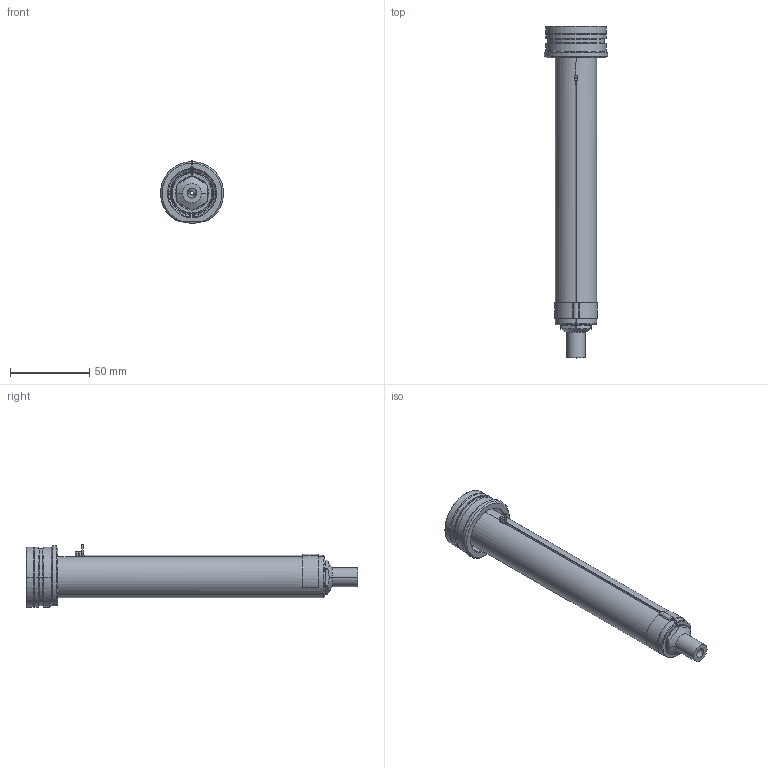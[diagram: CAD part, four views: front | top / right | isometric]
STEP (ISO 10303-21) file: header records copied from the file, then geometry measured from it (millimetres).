
FILE_DESCRIPTION((''),'2;1');
FILE_NAME('EO08_SG_ESG_180_SW','2024-02-19T12:22:46',('sundharh'),(''),'CREO PARAMETRIC BY PTC INC, 2023154','CREO PARAMETRIC BY PTC INC, 2023154','');
FILE_SCHEMA(('CONFIG_CONTROL_DESIGN'));
Length unit declared in the file: millimetre
Products named in the file (1): EO08_SG_ESG_180_SW
Bounding box: 39.88 x 210 x 39.52 mm (x, y, z)
Volume: 103414.6 mm3; surface area: 28035.2 mm2
Topology: 1 solids, 1 shells, 167 faces, 419 edges, 256 vertices
Faces by surface type: cylinder 64, plane 44, cone 33, torus 19, bspline 4, sphere 3
Entity records: 6217 total; most frequent: CARTESIAN_POINT 2144, DIRECTION 895, ORIENTED_EDGE 826, EDGE_CURVE 413, AXIS2_PLACEMENT_3D 370, VERTEX_POINT 256, CIRCLE 207, EDGE_LOOP 183
